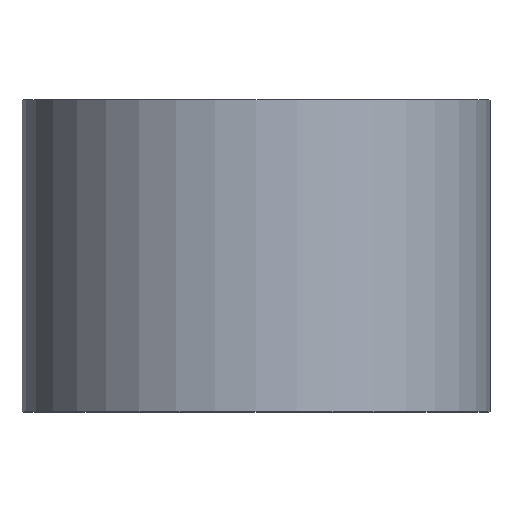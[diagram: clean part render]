
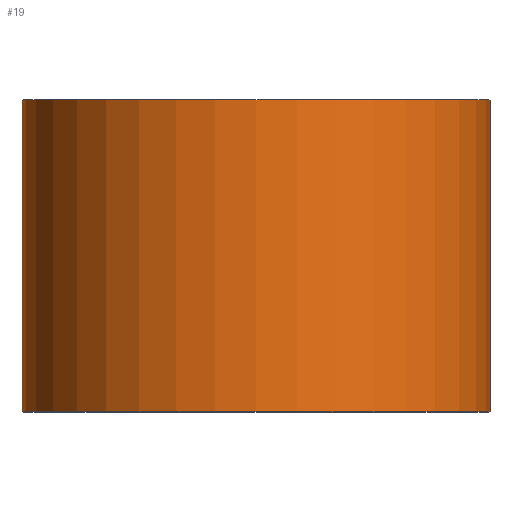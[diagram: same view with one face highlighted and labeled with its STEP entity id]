
A CAD part, top view. The second image highlights one B-rep face of the part: STEP entity #19.
In plain terms, the highlighted cylindrical face has radius 9 mm (diameter 18 mm), a partial arc.
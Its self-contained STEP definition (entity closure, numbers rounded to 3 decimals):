
#4 = DIRECTION ( 'NONE',  ( -1., 0., 0. ) ) ;
#13 = EDGE_CURVE ( 'NONE', #159, #216, #219, .T. ) ;
#15 = EDGE_CURVE ( 'NONE', #160, #65, #191, .T. ) ;
#18 = CARTESIAN_POINT ( 'NONE',  ( 9., 0., 0. ) ) ;
#19 = ADVANCED_FACE ( 'NONE', ( #296 ), #89, .T. ) ;
#20 = CARTESIAN_POINT ( 'NONE',  ( 9., 0., 0. ) ) ;
#27 = EDGE_CURVE ( 'NONE', #159, #160, #33, .T. ) ;
#33 = CIRCLE ( 'NONE', #184, 9. ) ;
#45 = DIRECTION ( 'NONE',  ( 0., 1., 0. ) ) ;
#53 = CARTESIAN_POINT ( 'NONE',  ( -9., 12., 0. ) ) ;
#65 = VERTEX_POINT ( 'NONE', #276 ) ;
#89 = CYLINDRICAL_SURFACE ( 'NONE', #112, 9. ) ;
#90 = ORIENTED_EDGE ( 'NONE', *, *, #15, .T. ) ;
#96 = CARTESIAN_POINT ( 'NONE',  ( 0., 12., 0. ) ) ;
#112 = AXIS2_PLACEMENT_3D ( 'NONE', #197, #157, #194 ) ;
#113 = VECTOR ( 'NONE', #227, 1000. ) ;
#114 = DIRECTION ( 'NONE',  ( 0., 1., 0. ) ) ;
#131 = EDGE_CURVE ( 'NONE', #216, #65, #150, .T. ) ;
#138 = CARTESIAN_POINT ( 'NONE',  ( -9., 0., 0. ) ) ;
#150 = CIRCLE ( 'NONE', #154, 9. ) ;
#154 = AXIS2_PLACEMENT_3D ( 'NONE', #96, #254, #4 ) ;
#155 = CARTESIAN_POINT ( 'NONE',  ( 0., 0., 0. ) ) ;
#157 = DIRECTION ( 'NONE',  ( 0., 1., 0. ) ) ;
#159 = VERTEX_POINT ( 'NONE', #138 ) ;
#160 = VERTEX_POINT ( 'NONE', #20 ) ;
#167 = ORIENTED_EDGE ( 'NONE', *, *, #27, .T. ) ;
#184 = AXIS2_PLACEMENT_3D ( 'NONE', #155, #45, #272 ) ;
#191 = LINE ( 'NONE', #18, #233 ) ;
#194 = DIRECTION ( 'NONE',  ( -1., 0., 0. ) ) ;
#195 = EDGE_LOOP ( 'NONE', ( #167, #90, #275, #241 ) ) ;
#197 = CARTESIAN_POINT ( 'NONE',  ( 0., 0., 0. ) ) ;
#216 = VERTEX_POINT ( 'NONE', #53 ) ;
#219 = LINE ( 'NONE', #300, #113 ) ;
#227 = DIRECTION ( 'NONE',  ( 0., 1., 0. ) ) ;
#233 = VECTOR ( 'NONE', #114, 1000. ) ;
#241 = ORIENTED_EDGE ( 'NONE', *, *, #13, .F. ) ;
#254 = DIRECTION ( 'NONE',  ( 0., 1., 0. ) ) ;
#272 = DIRECTION ( 'NONE',  ( -1., 0., 0. ) ) ;
#275 = ORIENTED_EDGE ( 'NONE', *, *, #131, .F. ) ;
#276 = CARTESIAN_POINT ( 'NONE',  ( 9., 12., 0. ) ) ;
#296 = FACE_OUTER_BOUND ( 'NONE', #195, .T. ) ;
#300 = CARTESIAN_POINT ( 'NONE',  ( -9., 0., 0. ) ) ;
